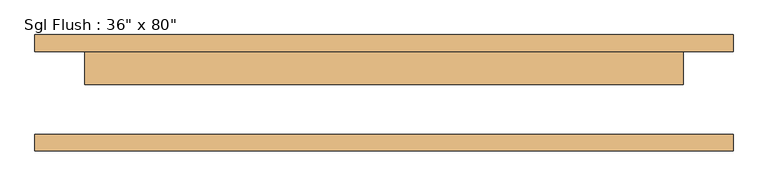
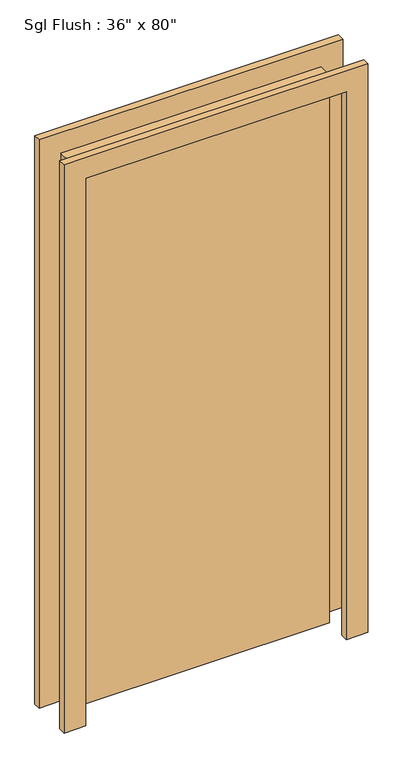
"""IFC4 building model written with IfcOpenShell, lengths in millimetres: door geometry."""

from ifc_helpers import new_model, si_unit, frame, origin, origin_with_axes, place, context, project, spatial, polyline, outline, extrude, source, transform, mapped, element, save


def door_bc81e0a2(model_context):
    return source(origin(), model_context, "Body", "SweptSolid", [
        extrude(outline(polyline([(2108.2, -533.4), (0.0, -533.4), (0.0, -457.2), (2032.0, -457.2), (2032.0, 457.2), (0.0, 457.2), (0.0, 533.4), (2108.2, 533.4), (2108.2, -533.4)])), frame((0.0, 63.5, 0.0), z_axis=(0.0, 1.0, 0.0), x_axis=(0.0, 0.0, 1.0)), (0.0, 0.0, 1.0), 25.4),
        extrude(outline(polyline([(2108.2, 533.4), (2108.2, -533.4), (0.0, -533.4), (0.0, -457.2), (2032.0, -457.2), (2032.0, 457.2), (0.0, 457.2), (0.0, 533.4), (2108.2, 533.4)])), frame((0.0, -88.9, 0.0), z_axis=(0.0, 1.0, 0.0), x_axis=(0.0, 0.0, 1.0)), (0.0, 0.0, 1.0), 25.4),
        extrude(outline(polyline([(457.2, 12.7), (-457.2, 12.7), (-457.2, 63.5), (457.2, 63.5), (457.2, 12.7)])), origin_with_axes(), (0.0, 0.0, 1.0), 2032.0),
    ])


if __name__ == "__main__":
    model = new_model("IFC4")
    model_context = context("Model", 3, world=origin())
    ifc_project = project(units=[si_unit("LENGTHUNIT", "METRE", prefix="MILLI")], contexts=[model_context])
    site = spatial("IfcSite", under=ifc_project)
    building = spatial("IfcBuilding", under=site)
    placement = place(None, origin())
    door_shape = door_bc81e0a2(model_context)
    element("IfcDoor", 1, ObjectType="Sgl Flush : 36\" x 80\"", at=placement, inside=building, context=model_context, shape_type="MappedRepresentation", body=[
        mapped(door_shape, transform((0.0, 0.0, 0.0), x_axis=(1.0, 0.0, 0.0), y_axis=(0.0, 1.0, 0.0), z_axis=(0.0, 0.0, 1.0))),
    ])
    save(model, "model.ifc")
